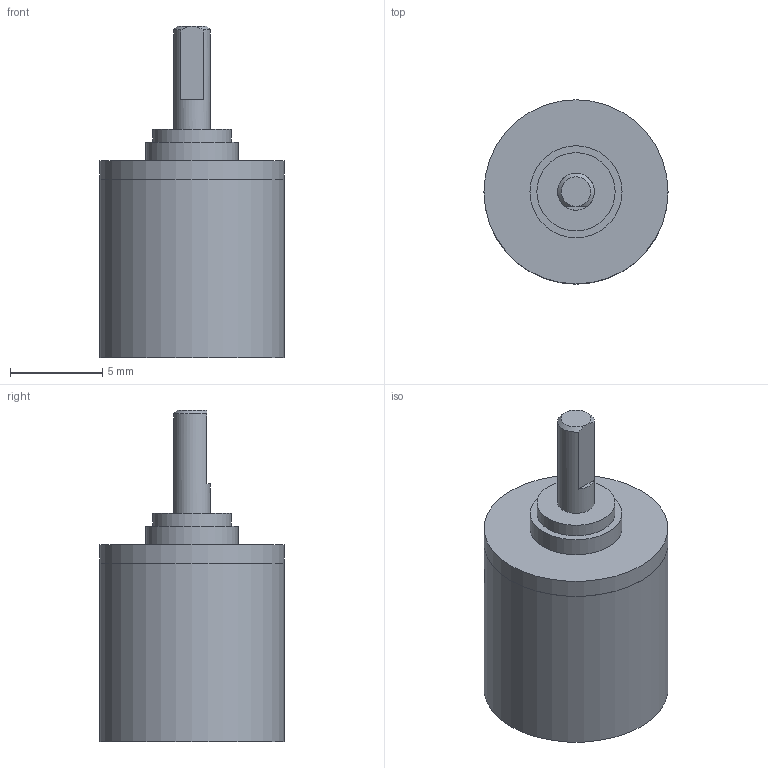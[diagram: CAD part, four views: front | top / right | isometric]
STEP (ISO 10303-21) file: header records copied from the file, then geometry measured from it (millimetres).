
FILE_DESCRIPTION(/* description */ (''),/* implementation_level */ '2;1');
FILE_NAME(/* name */ '10-1K_1.stp',/* time_stamp */ '2016-08-24T08:25:34+02:00',/* author */ ('DR. FRITZ FAULHABER GmbH & Co. KG'),/* organization */ ('DR. FRITZ FAULHABER GmbH & Co. KG'),/* preprocessor_version */ 'ST-DEVELOPER v16',/* originating_system */ 'SIEMENS PLM Software NX 10.0',/* authorisation */ '');
FILE_SCHEMA (('AUTOMOTIVE_DESIGN { 1 0 10303 214 3 1 1 1 }'));
Length unit declared in the file: millimetre
Products named in the file (1): H00000413_A
Bounding box: 10 x 10 x 18 mm (x, y, z)
Volume: 799.1 mm3; surface area: 623.3 mm2
Topology: 1 solids, 1 shells, 24 faces, 42 edges, 28 vertices
Faces by surface type: plane 12, cylinder 10, cone 2
Full cylindrical faces by diameter (mm): 2 x1, 3.12 x1, 3.32 x1, 4.25 x1, 4.959 x1, 5 x1, 6 x1, 9.99 x1, 10 x2
Entity records: 532 total; most frequent: DIRECTION 97, CARTESIAN_POINT 91, ORIENTED_EDGE 54, AXIS2_PLACEMENT_3D 47, EDGE_LOOP 43, FACE_BOUND 38, EDGE_CURVE 27, ADVANCED_FACE 24
